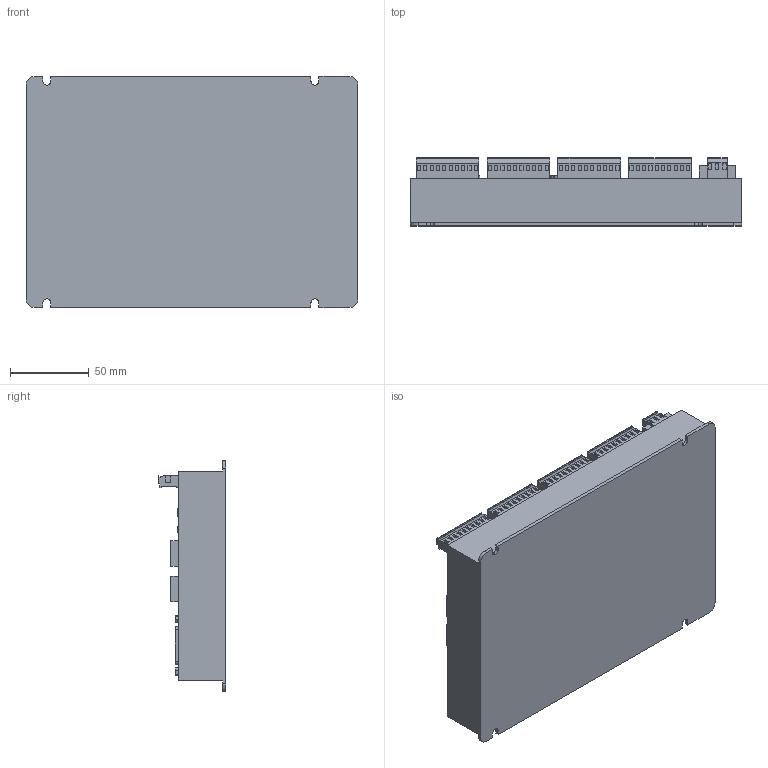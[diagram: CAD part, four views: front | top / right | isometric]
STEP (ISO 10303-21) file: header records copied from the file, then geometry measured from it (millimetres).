
FILE_DESCRIPTION (( 'STEP AP203' ), '1' );
FILE_NAME ('EIO24088.STEP', '2022-07-12T02:53:45', ( '' ), ( '' ), 'SwSTEP 2.0', 'SolidWorks 2019', '' );
FILE_SCHEMA (( 'CONFIG_CONTROL_DESIGN' ));
Length unit declared in the file: millimetre
Products named in the file (1): EIO24088
Bounding box: 210 x 43 x 146.5 mm (x, y, z)
Volume: 860126.7 mm3; surface area: 96165.4 mm2
Topology: 1 solids, 1 shells, 1961 faces, 4354 edges, 2762 vertices
Faces by surface type: plane 1295, cylinder 666
Entity records: 54054 total; most frequent: DIRECTION 9823, CARTESIAN_POINT 9078, ORIENTED_EDGE 8708, EDGE_CURVE 4354, AXIS2_PLACEMENT_3D 3507, VECTOR 2809, LINE 2809, VERTEX_POINT 2762
